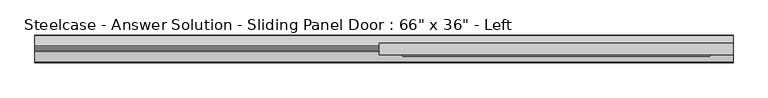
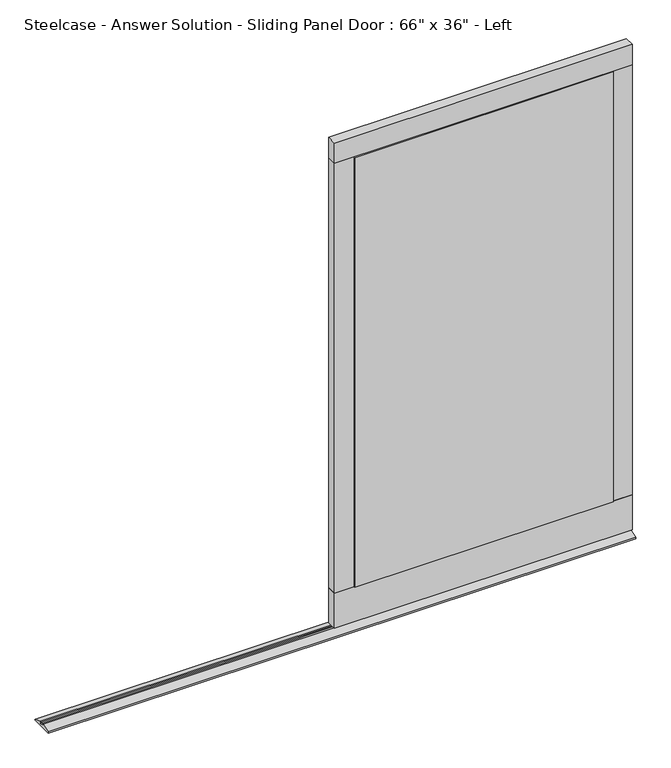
"""IFC4 building model written with IfcOpenShell, lengths in millimetres: furniture geometry."""

from ifc_helpers import new_model, si_unit, frame, origin, place, context, project, spatial, polyline, outline, extrude, source, transform, mapped, element, save


def furniture_3d710f01(model_context):
    return source(origin(), model_context, "Body", "SweptSolid", [
        extrude(outline(polyline([(1854.2, -53.9597878), (889.0, -53.9597878), (889.0, -22.2097635), (1854.2, -22.2097635), (1854.2, -53.9597878)])), frame((0.0, 0.0, 1610.3589729), z_axis=(0.0, 0.0, 1.0), x_axis=(1.0, 0.0, 0.0)), (0.0, 0.0, 1.0), 69.8499516),
        extrude(outline(polyline([(952.4999031, -53.9597878), (889.0, -53.9597878), (889.0, -22.2097635), (952.4999031, -22.2097635), (952.4999031, -53.9597878)])), frame((0.0, 0.0, 137.1589275), z_axis=(0.0, 0.0, 1.0), x_axis=(1.0, 0.0, 0.0)), (0.0, 0.0, 1.0), 1473.2000454),
        extrude(outline(polyline([(1854.2, -53.9597878), (1790.7000969, -53.9597878), (1790.7000969, -22.2097635), (1854.2, -22.2097635), (1854.2, -53.9597878)])), frame((0.0, 0.0, 137.1589275), z_axis=(0.0, 0.0, 1.0), x_axis=(1.0, 0.0, 0.0)), (0.0, 0.0, 1.0), 1473.2000454),
        extrude(outline(polyline([(1854.2, -53.9597878), (889.0, -53.9597878), (889.0, -22.2097635), (1854.2, -22.2097635), (1854.2, -53.9597878)])), frame((0.0, 0.0, 16.5089245), z_axis=(0.0, 0.0, 1.0), x_axis=(1.0, 0.0, 0.0)), (0.0, 0.0, 1.0), 120.650003),
        extrude(outline(polyline([(1790.7000969, -53.9597878), (1790.7000969, -57.7514894), (952.4999031, -57.7514894), (952.4999031, -53.9597878), (1790.7000969, -53.9597878)])), frame((0.0, 0.0, 137.1589275), z_axis=(0.0, 0.0, 1.0), x_axis=(1.0, 0.0, 0.0)), (0.0, 0.0, 1.0), 1473.2000454),
        extrude(outline(polyline([(-29.8388763, 12.2491055), (-1.9333122, 3.0138476), (0.0, 0.0), (-76.1694786, 0.0), (-74.2361664, 3.0138476), (-46.3306023, 12.2491055), (-46.3306023, 6.2879429), (-39.9806265, 6.2879429), (-39.9806265, 12.6379637), (-36.1889248, 12.6379637), (-36.1889248, 6.2879429), (-29.8388763, 6.2879429), (-29.8388763, 12.2491055)])), frame((-50.8, 0.0, 0.0), z_axis=(1.0, 0.0, 0.0), x_axis=(0.0, 1.0, 0.0)), (0.0, 0.0, 1.0), 1905.0),
    ])


if __name__ == "__main__":
    model = new_model("IFC4")
    model_context = context("Model", 3, world=origin())
    ifc_project = project(units=[si_unit("LENGTHUNIT", "METRE", prefix="MILLI")], contexts=[model_context])
    site = spatial("IfcSite", under=ifc_project)
    building = spatial("IfcBuilding", under=site)
    placement = place(None, origin())
    furniture_shape = furniture_3d710f01(model_context)
    element("IfcFurniture", 1, ObjectType="Steelcase - Answer Solution - Sliding Panel Door : 66\" x 36\" - Left", at=placement, inside=building, context=model_context, shape_type="MappedRepresentation", body=[
        mapped(furniture_shape, transform((0.0, 0.0, 0.0), x_axis=(1.0, 0.0, 0.0), y_axis=(0.0, 1.0, 0.0), z_axis=(0.0, 0.0, 1.0))),
    ])
    save(model, "model.ifc")
